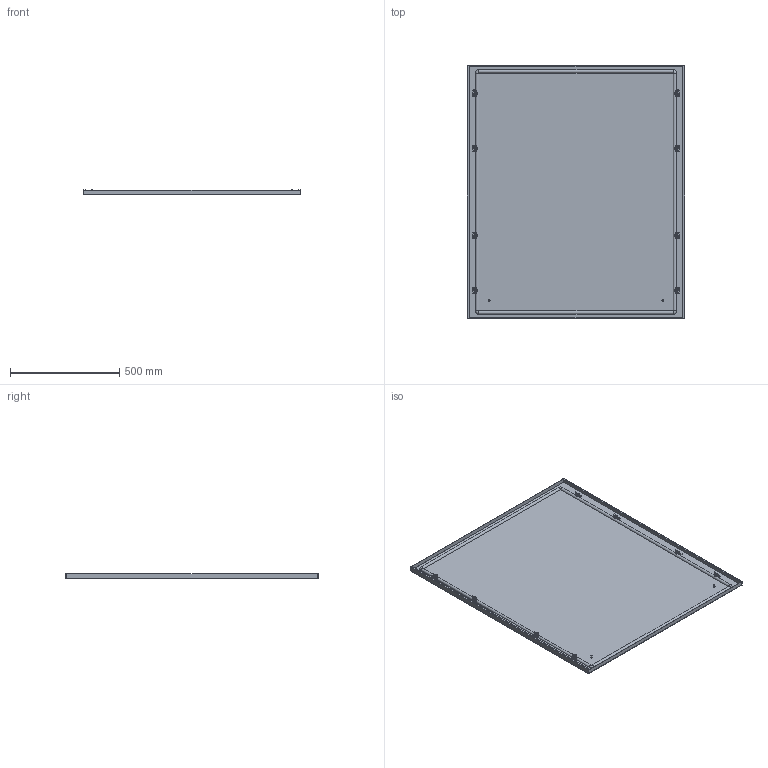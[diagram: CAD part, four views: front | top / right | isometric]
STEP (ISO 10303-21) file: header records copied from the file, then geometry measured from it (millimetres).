
FILE_DESCRIPTION(('Open CASCADE Model'),'2;1');
FILE_NAME('Open CASCADE Shape Model','2025-02-07T16:30:49',('Author'),( 'Open CASCADE'),'Open CASCADE STEP processor 7.8','Open CASCADE 7.8' ,'Unknown');
FILE_SCHEMA(('AUTOMOTIVE_DESIGN { 1 0 10303 214 1 1 1 1 }'));
Length unit declared in the file: millimetre
Products named in the file (10): Compound1; Compound2; Compound3; Solid1; Solid2; Solid3; Solid4; Solid5; Solid6; Solid7
Assembly tree (40 placements, depth 4):
  Compound1
    Compound2
      Compound3
        Solid1
        Solid2  x4
      Solid3
    Solid4  x8
    Solid5  x8
    Solid6  x8
    Solid7  x8
Bounding box: 994 x 1155 x 23.8 mm (x, y, z)
Volume: 2252812.3 mm3; surface area: 2697012.5 mm2
Topology: 38 solids, 38 shells, 1655 faces, 4040 edges, 2460 vertices
Faces by surface type: plane 1043, cone 308, cylinder 268, torus 27, bspline 8, revolution 1
Full cylindrical faces by diameter (mm): 5 x16, 6 x132, 7.5 x4, 8 x16, 10 x8, 11.57 x8
Entity records: 7779 total; most frequent: CARTESIAN_POINT 1469, DIRECTION 1264, ORIENTED_EDGE 1244, EDGE_CURVE 622, AXIS2_PLACEMENT_3D 427, LINE 409, VECTOR 409, VERTEX_POINT 387
